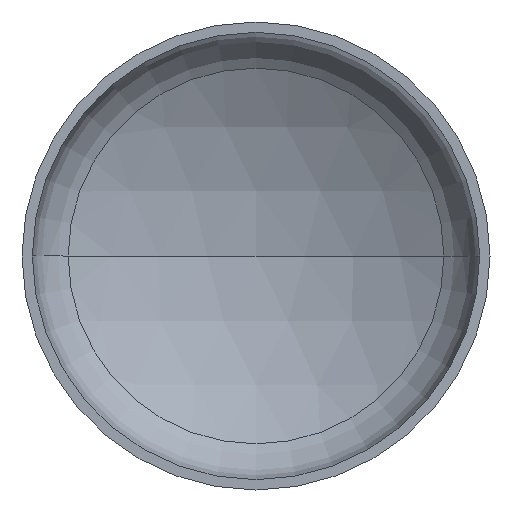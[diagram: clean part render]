
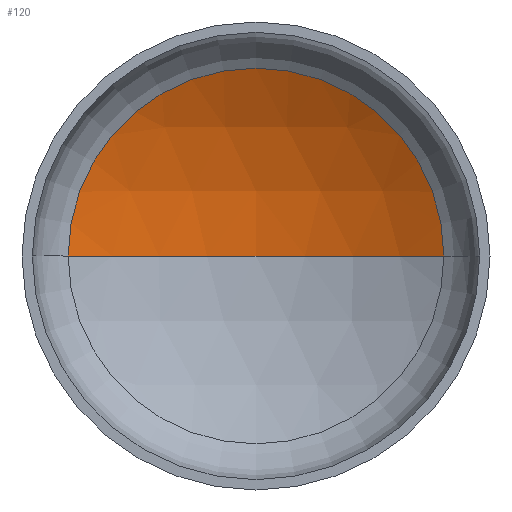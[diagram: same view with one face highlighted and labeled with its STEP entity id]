
A CAD part, front view. The second image highlights one B-rep face of the part: STEP entity #120.
In plain terms, the highlighted spherical face has radius 2240 mm.
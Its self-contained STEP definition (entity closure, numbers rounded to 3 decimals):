
#4 = DIRECTION ( 'NONE',  ( 0., -1., 0. ) ) ;
#7 = ORIENTED_EDGE ( 'NONE', *, *, #354, .F. ) ;
#14 = EDGE_LOOP ( 'NONE', ( #7, #350, #102 ) ) ;
#15 = AXIS2_PLACEMENT_3D ( 'NONE', #402, #302, #351 ) ;
#30 = VERTEX_POINT ( 'NONE', #290 ) ;
#51 = AXIS2_PLACEMENT_3D ( 'NONE', #202, #203, #226 ) ;
#61 = VERTEX_POINT ( 'NONE', #369 ) ;
#66 = AXIS2_PLACEMENT_3D ( 'NONE', #237, #4, #298 ) ;
#73 = AXIS2_PLACEMENT_3D ( 'NONE', #233, #313, #306 ) ;
#102 = ORIENTED_EDGE ( 'NONE', *, *, #153, .T. ) ;
#120 = ADVANCED_FACE ( 'NONE', ( #145 ), #208, .F. ) ;
#145 = FACE_OUTER_BOUND ( 'NONE', #14, .T. ) ;
#153 = EDGE_CURVE ( 'NONE', #61, #30, #266, .T. ) ;
#164 = EDGE_CURVE ( 'NONE', #166, #61, #224, .T. ) ;
#166 = VERTEX_POINT ( 'NONE', #375 ) ;
#202 = CARTESIAN_POINT ( 'NONE',  ( 0., -1445.77, 0. ) ) ;
#203 = DIRECTION ( 'NONE',  ( 0., 0., -1. ) ) ;
#208 = SPHERICAL_SURFACE ( 'NONE', #73, 2240. ) ;
#224 = CIRCLE ( 'NONE', #51, 2240. ) ;
#226 = DIRECTION ( 'NONE',  ( -1., 0., 0. ) ) ;
#227 = CIRCLE ( 'NONE', #15, 2240. ) ;
#233 = CARTESIAN_POINT ( 'NONE',  ( 0., -1445.77, 0. ) ) ;
#237 = CARTESIAN_POINT ( 'NONE',  ( 0., 491.979, 0. ) ) ;
#266 = CIRCLE ( 'NONE', #66, 1123.713 ) ;
#290 = CARTESIAN_POINT ( 'NONE',  ( -1123.713, 491.979, 0. ) ) ;
#298 = DIRECTION ( 'NONE',  ( 1., 0., 0. ) ) ;
#302 = DIRECTION ( 'NONE',  ( 0., 0., 1. ) ) ;
#306 = DIRECTION ( 'NONE',  ( -1., 0., 0. ) ) ;
#313 = DIRECTION ( 'NONE',  ( 0., 0., -1. ) ) ;
#350 = ORIENTED_EDGE ( 'NONE', *, *, #164, .T. ) ;
#351 = DIRECTION ( 'NONE',  ( 1., 0., 0. ) ) ;
#354 = EDGE_CURVE ( 'NONE', #166, #30, #227, .T. ) ;
#369 = CARTESIAN_POINT ( 'NONE',  ( 1123.713, 491.979, 0. ) ) ;
#375 = CARTESIAN_POINT ( 'NONE',  ( 0., 794.23, 0. ) ) ;
#402 = CARTESIAN_POINT ( 'NONE',  ( 0., -1445.77, 0. ) ) ;
